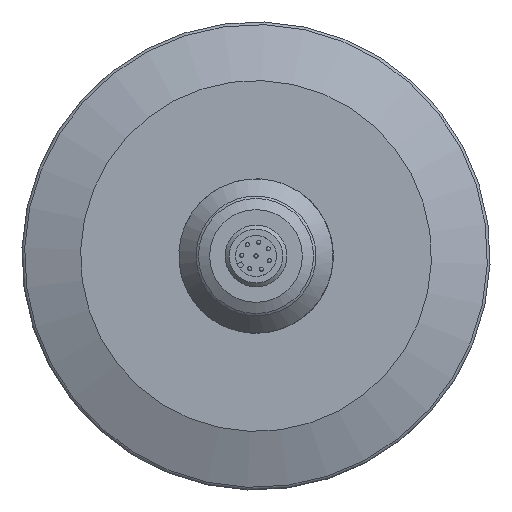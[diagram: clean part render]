
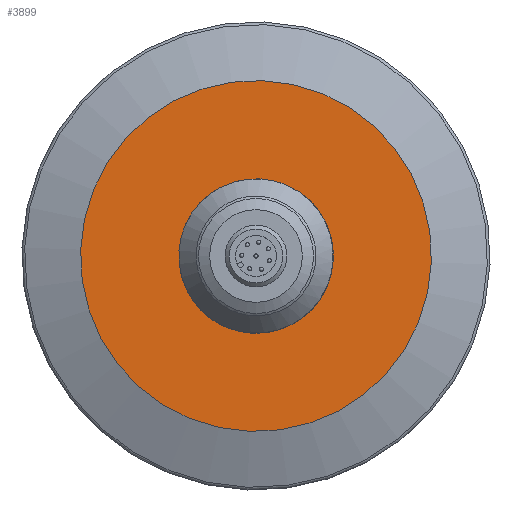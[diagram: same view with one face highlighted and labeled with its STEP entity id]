
A CAD part, front view. The second image highlights one B-rep face of the part: STEP entity #3899.
In plain terms, the highlighted planar face has unit normal (0, -1, 0).
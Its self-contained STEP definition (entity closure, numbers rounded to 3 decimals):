
#572=PLANE('',#4066);
#1326=ORIENTED_EDGE('',*,*,#1698,.F.);
#1327=ORIENTED_EDGE('',*,*,#1710,.F.);
#1698=EDGE_CURVE('',#1961,#1961,#2028,.T.);
#1710=EDGE_CURVE('',#1973,#1973,#2040,.T.);
#1961=VERTEX_POINT('',#9070);
#1973=VERTEX_POINT('',#9105);
#2028=CIRCLE('',#4042,15.);
#2040=CIRCLE('',#4065,34.098);
#2261=EDGE_LOOP('',(#1326));
#2262=EDGE_LOOP('',(#1327));
#2496=FACE_BOUND('',#2261,.T.);
#2497=FACE_BOUND('',#2262,.T.);
#3899=ADVANCED_FACE('',(#2496,#2497),#572,.T.);
#4042=AXIS2_PLACEMENT_3D('',#9069,#4468,#4469);
#4065=AXIS2_PLACEMENT_3D('',#9104,#4514,#4515);
#4066=AXIS2_PLACEMENT_3D('',#9106,#4516,#4517);
#4468=DIRECTION('',(0.,-1.,0.));
#4469=DIRECTION('',(0.,0.,-1.));
#4514=DIRECTION('',(0.,1.,0.));
#4515=DIRECTION('',(0.99,0.,0.138));
#4516=DIRECTION('',(0.,-1.,0.));
#4517=DIRECTION('',(-0.99,0.,-0.138));
#9069=CARTESIAN_POINT('',(0.,-0.094,0.));
#9070=CARTESIAN_POINT('',(0.,-0.094,-15.));
#9104=CARTESIAN_POINT('',(0.,-0.094,0.));
#9105=CARTESIAN_POINT('',(33.772,-0.094,4.703));
#9106=CARTESIAN_POINT('',(16.954,-0.094,2.361));
